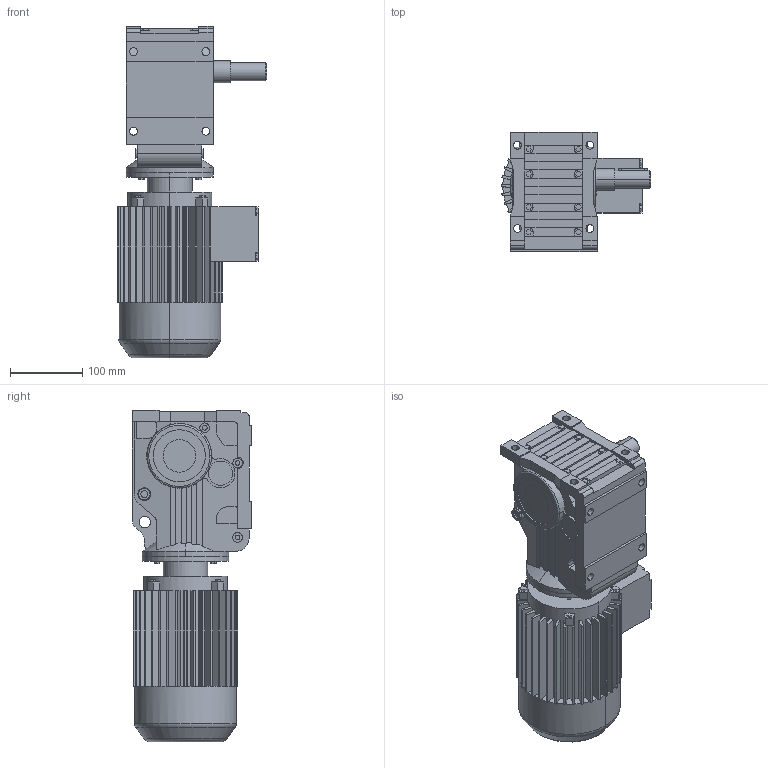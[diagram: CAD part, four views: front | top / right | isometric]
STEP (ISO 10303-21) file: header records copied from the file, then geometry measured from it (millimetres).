
FILE_DESCRIPTION(('Open CASCADE Model'),'2;1');
FILE_NAME('Open CASCADE Shape Model','2021-06-22T10:33:02',('Author'),( 'Open CASCADE'),'Open CASCADE STEP processor 6.3','Open CASCADE 6.3' ,'Unknown');
FILE_SCHEMA(('AUTOMOTIVE_DESIGN_CC2 { 1 2 10303 214 -1 1 5 4 }'));
Length unit declared in the file: millimetre
Products named in the file (4): 1_K37DT80-A; K37‵157_37.step; 萇儂_120-DT80-256-319-145-122.step; す瑩妗陑粣K_37.step
Assembly tree (3 placements, depth 2):
  1_K37DT80-A
    K37‵157_37.step
    萇儂_120-DT80-256-319-145-122.step
    す瑩妗陑粣K_37.step
Bounding box: 206.5 x 165 x 458 mm (x, y, z)
Volume: 6368202.1 mm3; surface area: 486109.7 mm2
Topology: 3 solids, 3 shells, 836 faces, 2204 edges, 1431 vertices
Faces by surface type: plane 582, cylinder 231, cone 15, torus 8
Entity records: 57270 total; most frequent: CARTESIAN_POINT 15392, DIRECTION 7216, ORIENTED_EDGE 4404, PCURVE 4404, DEFINITIONAL_REPRESENTATION 4404, LINE 3932, VECTOR 3932, EDGE_CURVE 2202
